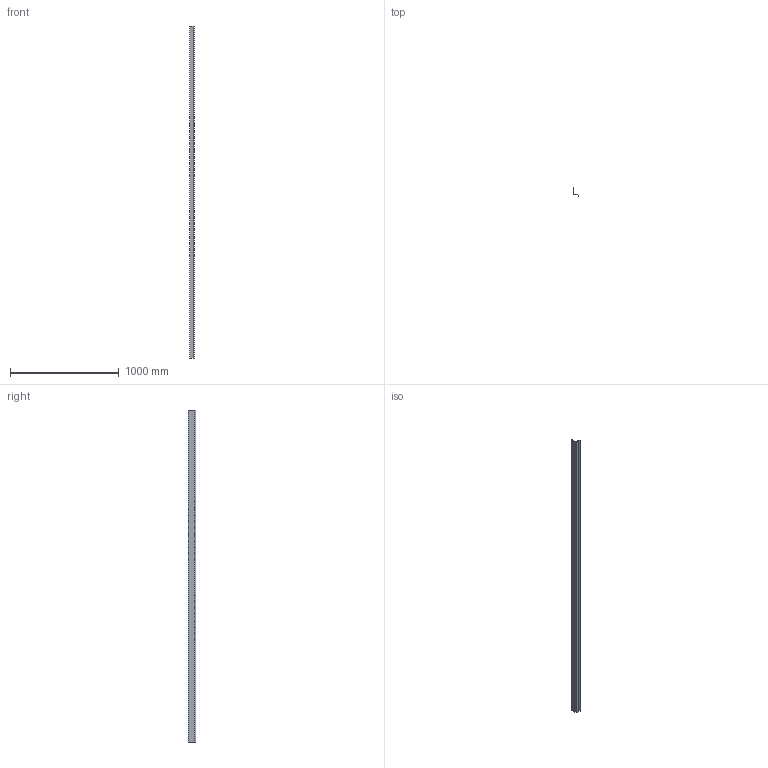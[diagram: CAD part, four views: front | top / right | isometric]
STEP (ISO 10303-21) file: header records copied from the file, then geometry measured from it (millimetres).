
FILE_DESCRIPTION (( 'STEP AP203' ), '1' );
FILE_NAME ('M53E.STEP', '2018-06-19T00:57:35', ( 'Michael Moliner' ), ( '' ), 'SwSTEP 2.0', 'SolidWorks 2018', '' );
FILE_SCHEMA (( 'CONFIG_CONTROL_DESIGN' ));
Length unit declared in the file: inch
Products named in the file (2): M53E
Bounding box: 43.54 x 69.42 x 3048 mm (x, y, z)
Volume: 235789.9 mm3; surface area: 931558.1 mm2
Topology: 1 solids, 1 shells, 21 faces, 57 edges, 38 vertices
Faces by surface type: plane 14, cylinder 7
Entity records: 822 total; most frequent: CARTESIAN_POINT 118, DIRECTION 117, ORIENTED_EDGE 114, EDGE_CURVE 57, LINE 43, VECTOR 43, VERTEX_POINT 38, AXIS2_PLACEMENT_3D 37
